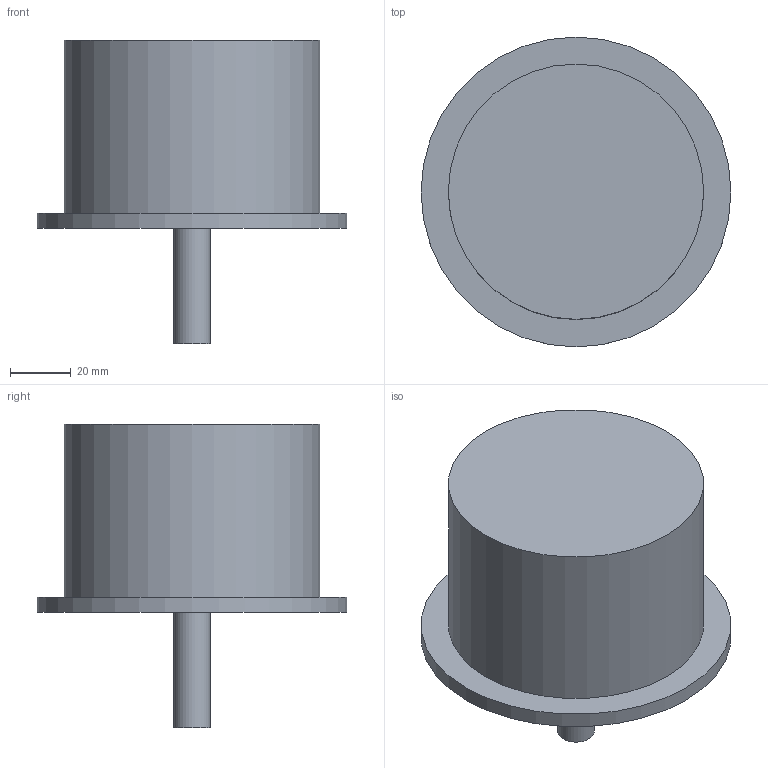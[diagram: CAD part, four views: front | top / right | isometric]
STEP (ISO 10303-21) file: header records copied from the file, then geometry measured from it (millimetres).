
FILE_DESCRIPTION(('Open CASCADE Model'),'2;1');
FILE_NAME('Open CASCADE Shape Model','2026-09-16T16:54:27',('Author'),( 'Open CASCADE'),'Open CASCADE STEP processor 7.8','Open CASCADE 7.8' ,'Unknown');
FILE_SCHEMA(('AUTOMOTIVE_DESIGN { 1 0 10303 214 1 1 1 1 }'));
Length unit declared in the file: millimetre
Products named in the file (1): Open CASCADE STEP translator 7.8 16
Bounding box: 102 x 102 x 100 mm (x, y, z)
Volume: 361035 mm3; surface area: 34419.3 mm2
Topology: 1 solids, 1 shells, 7 faces, 9 edges, 6 vertices
Faces by surface type: plane 4, cylinder 3
Full cylindrical faces by diameter (mm): 12 x1, 84 x1, 102 x1
Entity records: 282 total; most frequent: CARTESIAN_POINT 53, DIRECTION 47, ORIENTED_EDGE 18, PCURVE 18, DEFINITIONAL_REPRESENTATION 18, LINE 15, VECTOR 15, AXIS2_PLACEMENT_3D 14
